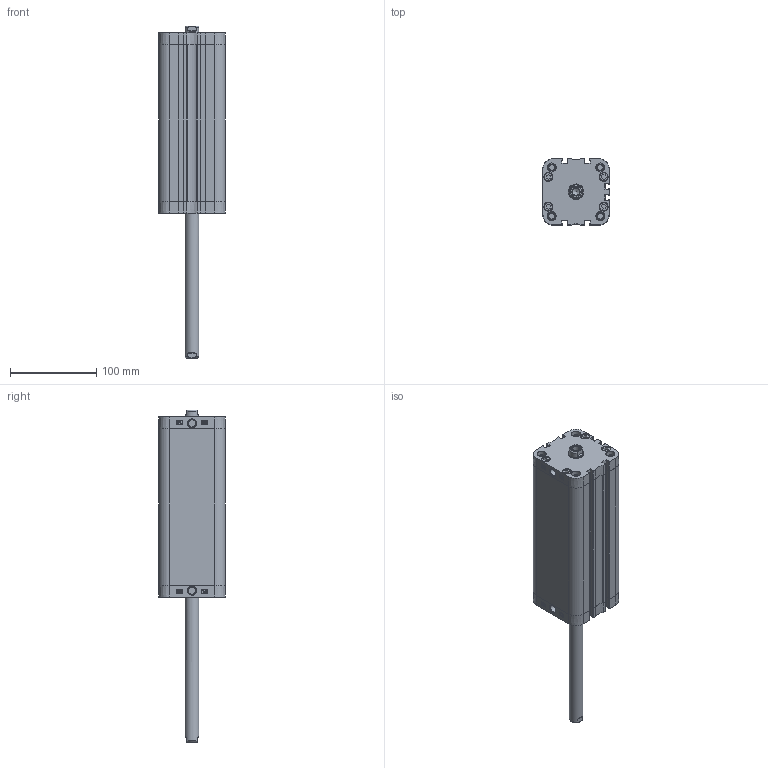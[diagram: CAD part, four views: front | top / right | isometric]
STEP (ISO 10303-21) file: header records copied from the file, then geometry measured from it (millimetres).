
FILE_DESCRIPTION(/* description */ ('Unknown'),/* implementation_level */ '2;1');
FILE_NAME(/* name */ 'ZBN 63_160',/* time_stamp */ '2024-11-15T12:46:00+01:00',/* author */ ('Unknown'),/* organization */ ('Unknown'),/* preprocessor_version */ 'ST-DEVELOPER v16.7',/* originating_system */ 'Solid Edge',/* authorisation */ 'Unknown');
FILE_SCHEMA (('AUTOMOTIVE_DESIGN {1 0 10303 214 3 1 1}'));
Length unit declared in the file: millimetre
Products named in the file (5): ZBN 63_160; Profilrohr; Kolbenstange; Kit_2; Kit_1
Assembly tree (5 placements, depth 2):
  ZBN 63_160
    Profilrohr
    Kolbenstange  x2
    Kit_2
    Kit_1
Bounding box: 77 x 77 x 385 mm (x, y, z)
Volume: 722879.9 mm3; surface area: 182296.2 mm2
Topology: 5 solids, 5 shells, 759 faces, 2009 edges, 1326 vertices
Faces by surface type: plane 352, cylinder 217, bspline 124, cone 44, torus 22
Full cylindrical faces by diameter (mm): 6.647 x8, 8.376 x4, 8.566 x2, 9.8 x8, 10.3 x8, 10.5 x8, 16 x2, 16.54 x2, 17.7 x2, 18 x2, 20.5 x2, 63 x3
Entity records: 27964 total; most frequent: CARTESIAN_POINT 5816, ORIENTED_EDGE 3716, DIRECTION 3338, EDGE_CURVE 1858, VERTEX_POINT 1287, AXIS2_PLACEMENT_3D 1125, LINE 1088, VECTOR 1088
